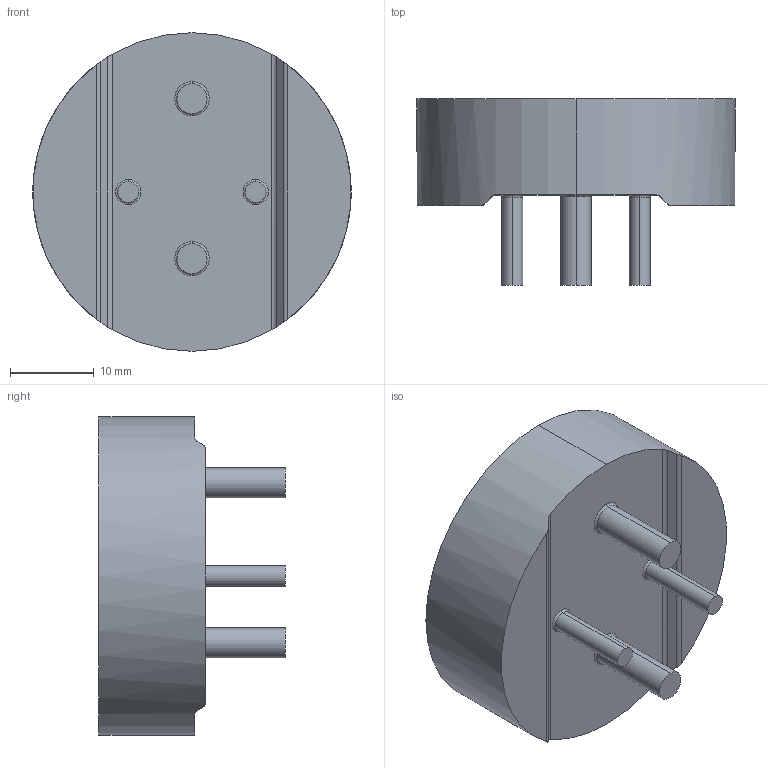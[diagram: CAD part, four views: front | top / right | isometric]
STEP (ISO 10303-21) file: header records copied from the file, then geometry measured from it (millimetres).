
FILE_DESCRIPTION (( 'STEP AP214' ), '1' );
FILE_NAME ('IHTH-1500MZ-5A 2.2uH.STEP', '2025-03-14T19:44:17', ( '' ), ( '' ), 'SwSTEP 2.0', 'SolidWorks 2024', '' );
FILE_SCHEMA (( 'AUTOMOTIVE_DESIGN' ));
Length unit declared in the file: inch
Products named in the file (1): IHTH-1500MZ-5A 2.2uH
Bounding box: 38.1 x 22.28 x 38.1 mm (x, y, z)
Volume: 13903.1 mm3; surface area: 4190.8 mm2
Topology: 1 solids, 1 shells, 213 faces, 550 edges, 364 vertices
Faces by surface type: plane 134, bspline 53, cylinder 18, torus 8
Entity records: 9641 total; most frequent: CARTESIAN_POINT 4753, ORIENTED_EDGE 1100, DIRECTION 802, EDGE_CURVE 550, LINE 384, VECTOR 384, VERTEX_POINT 364, EDGE_LOOP 238
